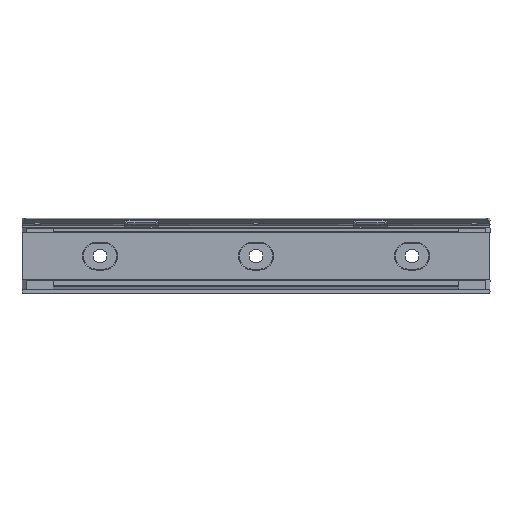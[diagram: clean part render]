
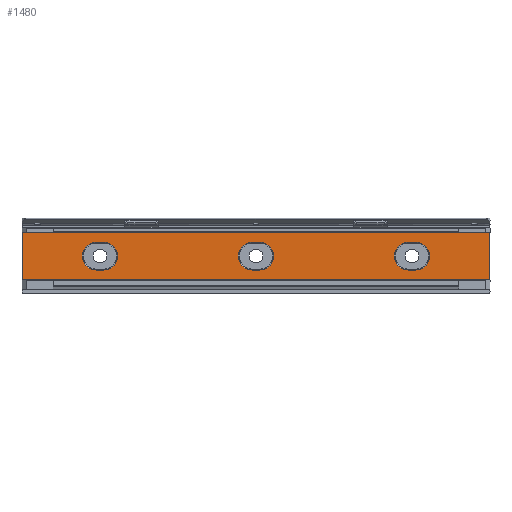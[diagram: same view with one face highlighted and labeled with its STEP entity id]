
A CAD part, front view. The second image highlights one B-rep face of the part: STEP entity #1480.
In plain terms, the highlighted planar face has unit normal (0, -1, 0).
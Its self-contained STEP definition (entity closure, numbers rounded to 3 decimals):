
#10=CARTESIAN_POINT('',(-5.,3.,
76.683));
#20=DIRECTION('',(0.,-1.,0.));
#30=DIRECTION('',(1.,0.,0.));
#40=AXIS2_PLACEMENT_3D('',#10,#20,#30);
#50=PLANE('',#40);
#60=CARTESIAN_POINT('',(-110.,3.,
72.083));
#70=DIRECTION('',(-1.,0.,0.));
#80=VECTOR('',#70,1.);
#90=LINE('',#60,#80);
#100=CARTESIAN_POINT('',(-108.25,3.,
72.083));
#110=VERTEX_POINT('',#100);
#120=CARTESIAN_POINT('',(-111.75,3.,
72.083));
#130=VERTEX_POINT('',#120);
#140=EDGE_CURVE('',#110,#130,#90,.T.);
#150=ORIENTED_EDGE('',*,*,#140,.F.);
#160=CARTESIAN_POINT('',(-111.75,3.,
65.383));
#170=DIRECTION('',(0.,-1.,0.));
#180=DIRECTION('',(-1.,0.,0.));
#190=AXIS2_PLACEMENT_3D('',#160,#170,#180);
#200=CIRCLE('',#190,6.7);
#210=CARTESIAN_POINT('',(-111.75,3.,
58.683));
#220=VERTEX_POINT('',#210);
#230=EDGE_CURVE('',#130,#220,#200,.T.);
#240=ORIENTED_EDGE('',*,*,#230,.F.);
#250=CARTESIAN_POINT('',(-110.,3.,
58.683));
#260=DIRECTION('',(1.,0.,0.));
#270=VECTOR('',#260,1.);
#280=LINE('',#250,#270);
#290=CARTESIAN_POINT('',(-108.25,3.,
58.683));
#300=VERTEX_POINT('',#290);
#310=EDGE_CURVE('',#220,#300,#280,.T.);
#320=ORIENTED_EDGE('',*,*,#310,.F.);
#330=CARTESIAN_POINT('',(-108.25,3.,
65.383));
#340=DIRECTION('',(0.,1.,0.));
#350=DIRECTION('',(1.,0.,0.));
#360=AXIS2_PLACEMENT_3D('',#330,#340,#350);
#370=CIRCLE('',#360,6.7);
#380=EDGE_CURVE('',#110,#300,#370,.T.);
#390=ORIENTED_EDGE('',*,*,#380,.T.);
#400=EDGE_LOOP('',(#390,#320,#240,#150));
#410=FACE_BOUND('',#400,.T.);
#420=CARTESIAN_POINT('',(-147.5,3.,
65.383));
#430=DIRECTION('',(0.,0.,1.));
#440=VECTOR('',#430,1.);
#450=LINE('',#420,#440);
#460=CARTESIAN_POINT('',(-147.5,3.,
54.083));
#470=VERTEX_POINT('',#460);
#480=CARTESIAN_POINT('',(-147.5,3.,
76.683));
#490=VERTEX_POINT('',#480);
#500=EDGE_CURVE('',#470,#490,#450,.T.);
#510=ORIENTED_EDGE('',*,*,#500,.F.);
#520=CARTESIAN_POINT('',(-5.,3.,
76.683));
#530=DIRECTION('',(-1.,0.,0.));
#540=VECTOR('',#530,1.);
#550=LINE('',#520,#540);
#560=CARTESIAN_POINT('',(77.5,3.,
76.683));
#570=VERTEX_POINT('',#560);
#580=EDGE_CURVE('',#570,#490,#550,.T.);
#590=ORIENTED_EDGE('',*,*,#580,.T.);
#600=CARTESIAN_POINT('',(77.5,3.,
65.383));
#610=DIRECTION('',(0.,0.,1.));
#620=VECTOR('',#610,1.);
#630=LINE('',#600,#620);
#640=CARTESIAN_POINT('',(77.5,3.,
54.083));
#650=VERTEX_POINT('',#640);
#660=EDGE_CURVE('',#650,#570,#630,.T.);
#670=ORIENTED_EDGE('',*,*,#660,.T.);
#680=CARTESIAN_POINT('',(-5.,3.,
54.083));
#690=DIRECTION('',(-1.,0.,0.));
#700=VECTOR('',#690,1.);
#710=LINE('',#680,#700);
#720=EDGE_CURVE('',#650,#470,#710,.T.);
#730=ORIENTED_EDGE('',*,*,#720,.F.);
#740=EDGE_LOOP('',(#730,#670,#590,#510));
#750=FACE_OUTER_BOUND('',#740,.T.);
#760=CARTESIAN_POINT('',(-35.,3.,
58.683));
#770=DIRECTION('',(-1.,0.,0.));
#780=VECTOR('',#770,1.);
#790=LINE('',#760,#780);
#800=CARTESIAN_POINT('',(-33.25,3.,
58.683));
#810=VERTEX_POINT('',#800);
#820=CARTESIAN_POINT('',(-36.75,3.,
58.683));
#830=VERTEX_POINT('',#820);
#840=EDGE_CURVE('',#810,#830,#790,.T.);
#850=ORIENTED_EDGE('',*,*,#840,.T.);
#860=CARTESIAN_POINT('',(-33.25,3.,
65.383));
#870=DIRECTION('',(0.,1.,0.));
#880=DIRECTION('',(1.,0.,0.));
#890=AXIS2_PLACEMENT_3D('',#860,#870,#880);
#900=CIRCLE('',#890,6.7);
#910=CARTESIAN_POINT('',(-33.25,3.,
72.083));
#920=VERTEX_POINT('',#910);
#930=EDGE_CURVE('',#920,#810,#900,.T.);
#940=ORIENTED_EDGE('',*,*,#930,.T.);
#950=CARTESIAN_POINT('',(-35.,3.,
72.083));
#960=DIRECTION('',(1.,0.,0.));
#970=VECTOR('',#960,1.);
#980=LINE('',#950,#970);
#990=CARTESIAN_POINT('',(-36.75,3.,
72.083));
#1000=VERTEX_POINT('',#990);
#1010=EDGE_CURVE('',#1000,#920,#980,.T.);
#1020=ORIENTED_EDGE('',*,*,#1010,.T.);
#1030=CARTESIAN_POINT('',(-36.75,3.,
65.383));
#1040=DIRECTION('',(0.,-1.,0.));
#1050=DIRECTION('',(-1.,0.,0.));
#1060=AXIS2_PLACEMENT_3D('',#1030,#1040,#1050);
#1070=CIRCLE('',#1060,6.7);
#1080=EDGE_CURVE('',#1000,#830,#1070,.T.);
#1090=ORIENTED_EDGE('',*,*,#1080,.F.);
#1100=EDGE_LOOP('',(#1090,#1020,#940,#850));
#1110=FACE_BOUND('',#1100,.T.);
#1120=CARTESIAN_POINT('',(40.,3.,
72.083));
#1130=DIRECTION('',(1.,0.,0.));
#1140=VECTOR('',#1130,1.);
#1150=LINE('',#1120,#1140);
#1160=CARTESIAN_POINT('',(38.25,3.,
72.083));
#1170=VERTEX_POINT('',#1160);
#1180=CARTESIAN_POINT('',(41.75,3.,
72.083));
#1190=VERTEX_POINT('',#1180);
#1200=EDGE_CURVE('',#1170,#1190,#1150,.T.);
#1210=ORIENTED_EDGE('',*,*,#1200,.T.);
#1220=CARTESIAN_POINT('',(38.25,3.,
65.383));
#1230=DIRECTION('',(0.,-1.,0.));
#1240=DIRECTION('',(-1.,0.,0.));
#1250=AXIS2_PLACEMENT_3D('',#1220,#1230,#1240);
#1260=CIRCLE('',#1250,6.7);
#1270=CARTESIAN_POINT('',(38.25,3.,
58.683));
#1280=VERTEX_POINT('',#1270);
#1290=EDGE_CURVE('',#1170,#1280,#1260,.T.);
#1300=ORIENTED_EDGE('',*,*,#1290,.F.);
#1310=CARTESIAN_POINT('',(40.,3.,
58.683));
#1320=DIRECTION('',(-1.,0.,0.));
#1330=VECTOR('',#1320,1.);
#1340=LINE('',#1310,#1330);
#1350=CARTESIAN_POINT('',(41.75,3.,
58.683));
#1360=VERTEX_POINT('',#1350);
#1370=EDGE_CURVE('',#1360,#1280,#1340,.T.);
#1380=ORIENTED_EDGE('',*,*,#1370,.T.);
#1390=CARTESIAN_POINT('',(41.75,3.,
65.383));
#1400=DIRECTION('',(0.,1.,0.));
#1410=DIRECTION('',(1.,0.,0.));
#1420=AXIS2_PLACEMENT_3D('',#1390,#1400,#1410);
#1430=CIRCLE('',#1420,6.7);
#1440=EDGE_CURVE('',#1190,#1360,#1430,.T.);
#1450=ORIENTED_EDGE('',*,*,#1440,.T.);
#1460=EDGE_LOOP('',(#1450,#1380,#1300,#1210));
#1470=FACE_BOUND('',#1460,.T.);
#1480=ADVANCED_FACE('',(#410,#750,#1110,#1470),#50,.T.);
